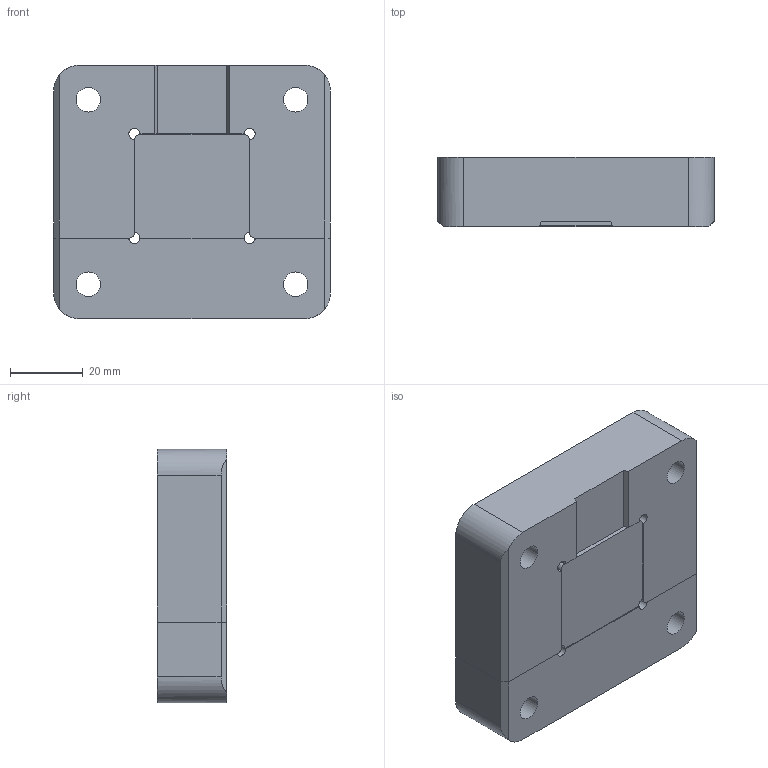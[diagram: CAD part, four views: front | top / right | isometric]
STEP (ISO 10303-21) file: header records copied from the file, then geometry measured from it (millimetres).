
FILE_DESCRIPTION(/* description */ ('STEP AP214'),/* implementation_level */ '2;1');
FILE_NAME(/* name */ 'BGS3000',/* time_stamp */ '2024-12-19T08:05:04+01:00',/* author */ ('License CC BY-ND 4.0'),/* organization */ ('CADENAS'),/* preprocessor_version */ 'ST-DEVELOPER v19.3',/* originating_system */ 'PARTsolutions',/* authorisation */ ' ');
FILE_SCHEMA (('AUTOMOTIVE_DESIGN {1 0 10303 214 3 1 1}'));
Length unit declared in the file: millimetre
Products named in the file (3): BGS3000; BGS3000M; BGS3000F
Assembly tree (2 placements, depth 2):
  BGS3000
    BGS3000M
    BGS3000F
Bounding box: 76.2 x 19.05 x 69.85 mm (x, y, z)
Volume: 94146.2 mm3; surface area: 22835.1 mm2
Topology: 2 solids, 2 shells, 54 faces, 138 edges, 92 vertices
Faces by surface type: plane 34, cylinder 20
Full cylindrical faces by diameter (mm): 6.756 x4, 12.7 x4
Entity records: 1700 total; most frequent: DIRECTION 290, CARTESIAN_POINT 279, ORIENTED_EDGE 260, EDGE_CURVE 130, AXIS2_PLACEMENT_3D 103, VERTEX_POINT 92, LINE 84, VECTOR 84
